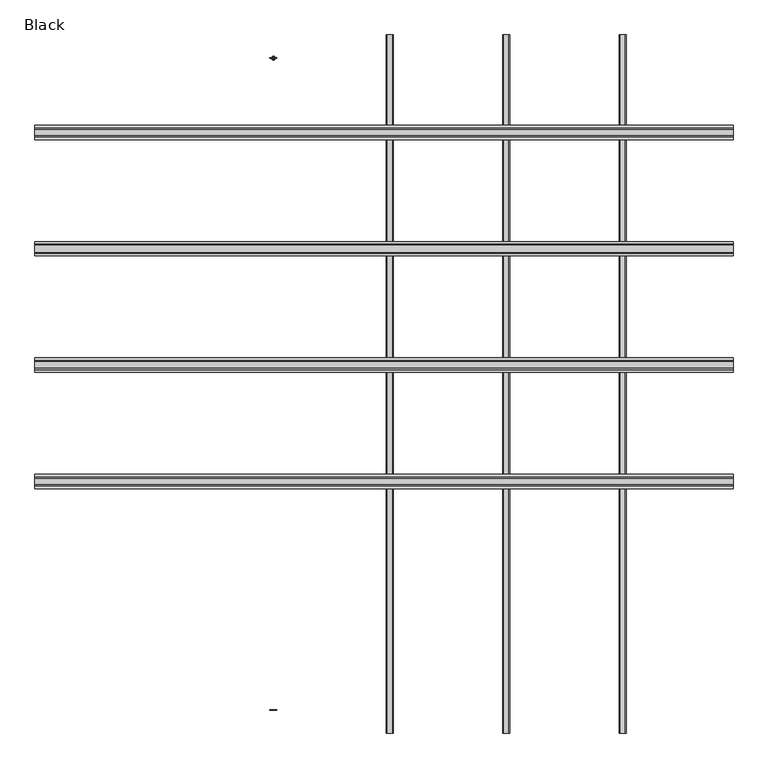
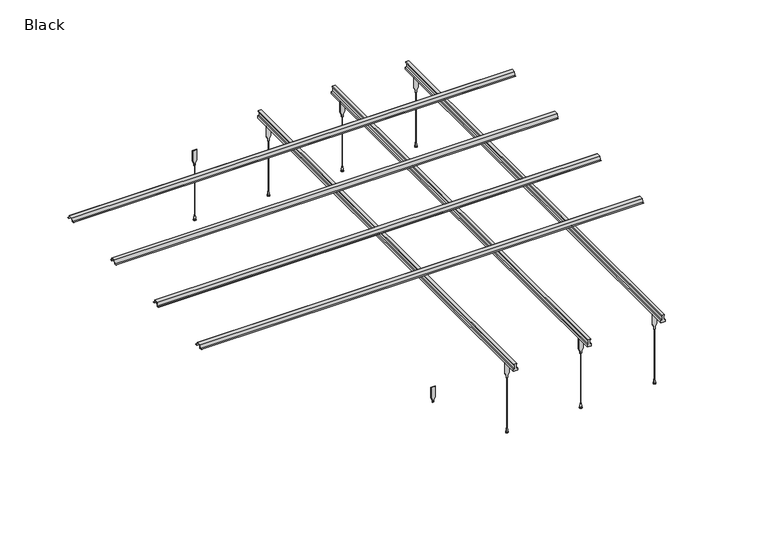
"""IFC4 building model written with IfcOpenShell, lengths in millimetres: proxy geometry, MountingTrack_Soffit_Modinex : Black."""

from ifc_helpers import new_model, si_unit, point, frame, frame_2d, origin, place, context, project, spatial, polyline, circle_curve, ellipse_curve, trimmed, segment, composite_curve, outline, extrude, source, transform, mapped, element, save
from ifc_brep_helpers import plane_surface, cylinder_surface, revolved_surface, advanced_brep


def black_910046b7(model_context):
    return source(origin(), model_context, "Body", "SolidModel", [
        extrude(outline(polyline([(1066.7109362, 574.0), (1095.2890638, 574.0), (1100.7890638, 551.0), (1112.0, 551.0), (1112.0, 550.0), (1100.0, 550.0), (1094.5, 573.0), (1067.5, 573.0), (1062.0, 550.0), (1050.0, 550.0), (1050.0, 551.0), (1061.2109362, 551.0), (1066.7109362, 574.0)])), frame((-1500.0, 0.0, 0.0), z_axis=(1.0, 0.0, 0.0), x_axis=(0.0, 1.0, 0.0)), (0.0, 0.0, 1.0), 3000.0),
        extrude(outline(polyline([(566.7109362, 574.0), (595.2890638, 574.0), (600.7890638, 551.0), (612.0, 551.0), (612.0, 550.0), (600.0, 550.0), (594.5, 573.0), (567.5, 573.0), (562.0, 550.0), (550.0, 550.0), (550.0, 551.0), (561.2109362, 551.0), (566.7109362, 574.0)])), frame((-1500.0, 0.0, 0.0), z_axis=(1.0, 0.0, 0.0), x_axis=(0.0, 1.0, 0.0)), (0.0, 0.0, 1.0), 3000.0),
        extrude(outline(polyline([(66.7109362, 574.0), (95.2890638, 574.0), (100.7890638, 551.0), (112.0, 551.0), (112.0, 550.0), (100.0, 550.0), (94.5, 573.0), (67.5, 573.0), (62.0, 550.0), (50.0, 550.0), (50.0, 551.0), (61.2109362, 551.0), (66.7109362, 574.0)])), frame((-1500.0, 0.0, 0.0), z_axis=(1.0, 0.0, 0.0), x_axis=(0.0, 1.0, 0.0)), (0.0, 0.0, 1.0), 3000.0),
        extrude(outline(polyline([(-433.2890638, 574.0), (-404.7109362, 574.0), (-399.2109362, 551.0), (-388.0, 551.0), (-388.0, 550.0), (-400.0, 550.0), (-405.5, 573.0), (-432.5, 573.0), (-438.0, 550.0), (-450.0, 550.0), (-450.0, 551.0), (-438.7890638, 551.0), (-433.2890638, 574.0)])), frame((-1500.0, 0.0, 0.0), z_axis=(1.0, 0.0, 0.0), x_axis=(0.0, 1.0, 0.0)), (0.0, 0.0, 1.0), 3000.0),
        extrude(outline(polyline([(390.0, 1030.0), (405.0, 1030.0), (425.0, 1040.0), (500.0, 1040.0), (500.0, 1010.0), (425.0, 1010.0), (405.0, 1020.0), (390.0, 1020.0), (390.0, 1030.0)])), frame((0.0, 1399.0, 0.0), z_axis=(0.0, 1.0, 0.0), x_axis=(0.0, 0.0, 1.0)), (0.0, 0.0, 1.0), 2.0),
        advanced_brep(
        [(1023.0, 1400.0, 35.0), (1027.0, 1400.0, 35.0), (1025.0, 1400.0, 35.0), (1025.0, 1400.0, 0.0), (1033.0000004, 1400.0, 0.0), (1016.9999996, 1400.0, 0.0), (1033.0000004, 1400.0, 2.5000013), (1016.9999996, 1400.0, 2.5000013), (1029.4999998, 1400.0, 2.5000013), (1020.5000002, 1400.0, 2.5000013), (1029.4999998, 1400.0, 5.5), (1020.5000002, 1400.0, 5.5), (1031.0000001, 1400.0, 5.5), (1018.9999999, 1400.0, 5.5), (1028.0, 1400.0, 29.9999993), (1022.0, 1400.0, 29.9999993), (1027.0, 1400.0, 29.9999993), (1023.0, 1400.0, 29.9999993)],
        [
            (0, 1, circle_curve(frame((1025.0, 1400.0, 35.0), z_axis=(0.0, 0.0, 1.0), x_axis=(1.0, 0.0, 0.0)), 2.0)),
            (1, 2),
            (2, 0),
            (1, 0, circle_curve(frame((1025.0, 1400.0, 35.0), z_axis=(0.0, 0.0, 1.0), x_axis=(1.0, 0.0, 0.0)), 2.0)),
            (3, 4),
            (4, 5, circle_curve(frame((1025.0, 1400.0, 0.0), z_axis=(0.0, 0.0, -1.0), x_axis=(1.0, 0.0, 0.0)), 8.0000004)),
            (5, 3),
            (5, 4, circle_curve(frame((1025.0, 1400.0, 0.0), z_axis=(0.0, 0.0, -1.0), x_axis=(1.0, 0.0, 0.0)), 8.0000004)),
            (4, 6),
            (6, 7, circle_curve(frame((1025.0, 1400.0, 2.5000013), z_axis=(0.0, 0.0, -1.0), x_axis=(1.0, 0.0, 0.0)), 8.0000004)),
            (7, 5),
            (7, 6, circle_curve(frame((1025.0, 1400.0, 2.5000013), z_axis=(0.0, 0.0, -1.0), x_axis=(1.0, 0.0, 0.0)), 8.0000004)),
            (6, 8),
            (8, 9, circle_curve(frame((1025.0, 1400.0, 2.5000013), z_axis=(0.0, 0.0, -1.0), x_axis=(1.0, 0.0, 0.0)), 4.4999998)),
            (9, 7),
            (9, 8, circle_curve(frame((1025.0, 1400.0, 2.5000013), z_axis=(0.0, 0.0, -1.0), x_axis=(1.0, 0.0, 0.0)), 4.4999998)),
            (8, 10),
            (10, 11, circle_curve(frame((1025.0, 1400.0, 5.5), z_axis=(0.0, 0.0, -1.0), x_axis=(1.0, 0.0, 0.0)), 4.4999998)),
            (11, 9),
            (11, 10, circle_curve(frame((1025.0, 1400.0, 5.5), z_axis=(0.0, 0.0, -1.0), x_axis=(1.0, 0.0, 0.0)), 4.4999998)),
            (10, 12),
            (12, 13, circle_curve(frame((1025.0, 1400.0, 5.5), z_axis=(0.0, 0.0, -1.0), x_axis=(1.0, 0.0, 0.0)), 6.0000001)),
            (13, 11),
            (13, 12, circle_curve(frame((1025.0, 1400.0, 5.5), z_axis=(0.0, 0.0, -1.0), x_axis=(1.0, 0.0, 0.0)), 6.0000001)),
            (12, 14, circle_curve(frame((929.4583655, 1400.0, 5.5000032), z_axis=(0.0, -1.0, 0.0), x_axis=(-1.0, 0.0, 0.0)), 101.5416345)),
            (14, 15, circle_curve(frame((1025.0, 1400.0, 29.9999993), z_axis=(0.0, 0.0, -1.0), x_axis=(1.0, 0.0, 0.0)), 3.0)),
            (15, 13, circle_curve(frame((1120.5416345, 1400.0, 5.5000032), z_axis=(0.0, -1.0, 0.0), x_axis=(1.0, 0.0, 0.0)), 101.5416345)),
            (15, 14, circle_curve(frame((1025.0, 1400.0, 29.9999993), z_axis=(0.0, 0.0, -1.0), x_axis=(1.0, 0.0, 0.0)), 3.0)),
            (14, 16),
            (16, 17, circle_curve(frame((1025.0, 1400.0, 29.9999993), z_axis=(0.0, 0.0, -1.0), x_axis=(1.0, 0.0, 0.0)), 2.0)),
            (17, 15),
            (17, 16, circle_curve(frame((1025.0, 1400.0, 29.9999993), z_axis=(0.0, 0.0, -1.0), x_axis=(1.0, 0.0, 0.0)), 2.0)),
            (16, 1),
            (0, 17),
        ],
        [
            plane_surface(frame((1025.0, 1400.0, 35.0), z_axis=(0.0, 0.0, 1.0), x_axis=(1.0, 0.0, 0.0))),
            plane_surface(frame((1025.0, 1400.0, 0.0), z_axis=(0.0, 0.0, -1.0), x_axis=(1.0, 0.0, 0.0))),
            cylinder_surface(frame((1025.0, 1400.0, -15.1208873), z_axis=(0.0, 0.0, -1.0), x_axis=(1.0, 0.0, 0.0)), 8.0000004),
            plane_surface(frame((1025.0, 1400.0, 2.5000013), z_axis=(0.0, 0.0, 1.0), x_axis=(1.0, 0.0, 0.0))),
            cylinder_surface(frame((1025.0, 1400.0, -15.1208873), z_axis=(0.0, 0.0, -1.0), x_axis=(1.0, 0.0, 0.0)), 4.4999998),
            plane_surface(frame((1025.0, 1400.0, 5.5), z_axis=(0.0, 0.0, -1.0), x_axis=(1.0, 0.0, 0.0))),
            revolved_surface(trimmed(ellipse_curve(frame((929.4583655, 1400.0, 5.5000032), z_axis=(0.0, 1.0, 0.0), x_axis=(-1.0, 0.0, 0.0)), 101.5416345, 101.5416345), [point((1028.0, 1400.0, 29.9999993))], [point((1031.0000001, 1400.0, 5.5))], True, "CARTESIAN"), (1025.0, 1400.0, -15.1208873), (0.0, 0.0, -1.0)),
            plane_surface(frame((1025.0, 1400.0, 29.9999993), z_axis=(0.0, 0.0, 1.0), x_axis=(1.0, 0.0, 0.0))),
            cylinder_surface(frame((1025.0, 1400.0, -15.1208873), z_axis=(0.0, 0.0, -1.0), x_axis=(1.0, 0.0, 0.0)), 2.0),
        ],
        [
            (0, [[1, 2, 3]]),
            (0, [[4, -3, -2]]),
            (1, [[5, 6, 7]]),
            (1, [[-7, 8, -5]]),
            (2, [[-6, 9, 10, 11]]),
            (2, [[-8, -11, 12, -9]]),
            (3, [[-10, 13, 14, 15]]),
            (3, [[-12, -15, 16, -13]]),
            (4, [[-14, 17, 18, 19]]),
            (4, [[-16, -19, 20, -17]]),
            (5, [[-18, 21, 22, 23]]),
            (5, [[-20, -23, 24, -21]]),
            (6, [[-22, 25, 26, 27]]),
            (6, [[-24, -27, 28, -25]]),
            (7, [[-26, 29, 30, 31]]),
            (7, [[-28, -31, 32, -29]]),
            (8, [[-30, 33, -1, 34]]),
            (8, [[-32, -34, -4, -33]]),
        ],
    ),
        extrude(outline(composite_curve([segment(trimmed(circle_curve(frame_2d((1025.0, 1400.0)), 0.65), [point((1025.65, 1400.0))], [point((1024.35, 1400.0))], False, "CARTESIAN"), True, "CONTINUOUS"), segment(trimmed(circle_curve(frame_2d((1025.0, 1400.0)), 0.65), [point((1024.35, 1400.0))], [point((1025.65, 1400.0))], False, "CARTESIAN"), True, "CONTINUOUS")], self_intersect=False)), frame((0.0, 0.0, 35.0), z_axis=(0.0, 0.0, 1.0), x_axis=(1.0, 0.0, 0.0)), (0.0, 0.0, 1.0), 355.0),
        extrude(outline(polyline([(390.0, 1030.0), (405.0, 1030.0), (425.0, 1040.0), (500.0, 1040.0), (500.0, 1010.0), (425.0, 1010.0), (405.0, 1020.0), (390.0, 1020.0), (390.0, 1030.0)])), frame((0.0, -1401.0, 0.0), z_axis=(0.0, 1.0, 0.0), x_axis=(0.0, 0.0, 1.0)), (0.0, 0.0, 1.0), 2.0),
        advanced_brep(
        [(1023.0, -1400.0, 35.0), (1027.0, -1400.0, 35.0), (1025.0, -1400.0, 35.0), (1025.0, -1400.0, 0.0), (1033.0000004, -1400.0, 0.0), (1016.9999996, -1400.0, 0.0), (1033.0000004, -1400.0, 2.5000013), (1016.9999996, -1400.0, 2.5000013), (1029.4999998, -1400.0, 2.5000013), (1020.5000002, -1400.0, 2.5000013), (1029.4999998, -1400.0, 5.5), (1020.5000002, -1400.0, 5.5), (1031.0000001, -1400.0, 5.5), (1018.9999999, -1400.0, 5.5), (1028.0, -1400.0, 29.9999993), (1022.0, -1400.0, 29.9999993), (1027.0, -1400.0, 29.9999993), (1023.0, -1400.0, 29.9999993)],
        [
            (0, 1, circle_curve(frame((1025.0, -1400.0, 35.0), z_axis=(0.0, 0.0, 1.0), x_axis=(1.0, 0.0, 0.0)), 2.0)),
            (1, 2),
            (2, 0),
            (1, 0, circle_curve(frame((1025.0, -1400.0, 35.0), z_axis=(0.0, 0.0, 1.0), x_axis=(1.0, 0.0, 0.0)), 2.0)),
            (3, 4),
            (4, 5, circle_curve(frame((1025.0, -1400.0, 0.0), z_axis=(0.0, 0.0, -1.0), x_axis=(1.0, 0.0, 0.0)), 8.0000004)),
            (5, 3),
            (5, 4, circle_curve(frame((1025.0, -1400.0, 0.0), z_axis=(0.0, 0.0, -1.0), x_axis=(1.0, 0.0, 0.0)), 8.0000004)),
            (4, 6),
            (6, 7, circle_curve(frame((1025.0, -1400.0, 2.5000013), z_axis=(0.0, 0.0, -1.0), x_axis=(1.0, 0.0, 0.0)), 8.0000004)),
            (7, 5),
            (7, 6, circle_curve(frame((1025.0, -1400.0, 2.5000013), z_axis=(0.0, 0.0, -1.0), x_axis=(1.0, 0.0, 0.0)), 8.0000004)),
            (6, 8),
            (8, 9, circle_curve(frame((1025.0, -1400.0, 2.5000013), z_axis=(0.0, 0.0, -1.0), x_axis=(1.0, 0.0, 0.0)), 4.4999998)),
            (9, 7),
            (9, 8, circle_curve(frame((1025.0, -1400.0, 2.5000013), z_axis=(0.0, 0.0, -1.0), x_axis=(1.0, 0.0, 0.0)), 4.4999998)),
            (8, 10),
            (10, 11, circle_curve(frame((1025.0, -1400.0, 5.5), z_axis=(0.0, 0.0, -1.0), x_axis=(1.0, 0.0, 0.0)), 4.4999998)),
            (11, 9),
            (11, 10, circle_curve(frame((1025.0, -1400.0, 5.5), z_axis=(0.0, 0.0, -1.0), x_axis=(1.0, 0.0, 0.0)), 4.4999998)),
            (10, 12),
            (12, 13, circle_curve(frame((1025.0, -1400.0, 5.5), z_axis=(0.0, 0.0, -1.0), x_axis=(1.0, 0.0, 0.0)), 6.0000001)),
            (13, 11),
            (13, 12, circle_curve(frame((1025.0, -1400.0, 5.5), z_axis=(0.0, 0.0, -1.0), x_axis=(1.0, 0.0, 0.0)), 6.0000001)),
            (12, 14, circle_curve(frame((929.4583655, -1400.0, 5.5000032), z_axis=(0.0, -1.0, 0.0), x_axis=(-1.0, 0.0, 0.0)), 101.5416345)),
            (14, 15, circle_curve(frame((1025.0, -1400.0, 29.9999993), z_axis=(0.0, 0.0, -1.0), x_axis=(1.0, 0.0, 0.0)), 3.0)),
            (15, 13, circle_curve(frame((1120.5416345, -1400.0, 5.5000032), z_axis=(0.0, -1.0, 0.0), x_axis=(1.0, 0.0, 0.0)), 101.5416345)),
            (15, 14, circle_curve(frame((1025.0, -1400.0, 29.9999993), z_axis=(0.0, 0.0, -1.0), x_axis=(1.0, 0.0, 0.0)), 3.0)),
            (14, 16),
            (16, 17, circle_curve(frame((1025.0, -1400.0, 29.9999993), z_axis=(0.0, 0.0, -1.0), x_axis=(1.0, 0.0, 0.0)), 2.0)),
            (17, 15),
            (17, 16, circle_curve(frame((1025.0, -1400.0, 29.9999993), z_axis=(0.0, 0.0, -1.0), x_axis=(1.0, 0.0, 0.0)), 2.0)),
            (16, 1),
            (0, 17),
        ],
        [
            plane_surface(frame((1025.0, -1400.0, 35.0), z_axis=(0.0, 0.0, 1.0), x_axis=(1.0, 0.0, 0.0))),
            plane_surface(frame((1025.0, -1400.0, 0.0), z_axis=(0.0, 0.0, -1.0), x_axis=(1.0, 0.0, 0.0))),
            cylinder_surface(frame((1025.0, -1400.0, -15.1208873), z_axis=(0.0, 0.0, -1.0), x_axis=(1.0, 0.0, 0.0)), 8.0000004),
            plane_surface(frame((1025.0, -1400.0, 2.5000013), z_axis=(0.0, 0.0, 1.0), x_axis=(1.0, 0.0, 0.0))),
            cylinder_surface(frame((1025.0, -1400.0, -15.1208873), z_axis=(0.0, 0.0, -1.0), x_axis=(1.0, 0.0, 0.0)), 4.4999998),
            plane_surface(frame((1025.0, -1400.0, 5.5), z_axis=(0.0, 0.0, -1.0), x_axis=(1.0, 0.0, 0.0))),
            revolved_surface(trimmed(ellipse_curve(frame((929.4583655, -1400.0, 5.5000032), z_axis=(0.0, 1.0, 0.0), x_axis=(-1.0, 0.0, 0.0)), 101.5416345, 101.5416345), [point((1028.0, -1400.0, 29.9999993))], [point((1031.0000001, -1400.0, 5.5))], True, "CARTESIAN"), (1025.0, -1400.0, -15.1208873), (0.0, 0.0, -1.0)),
            plane_surface(frame((1025.0, -1400.0, 29.9999993), z_axis=(0.0, 0.0, 1.0), x_axis=(1.0, 0.0, 0.0))),
            cylinder_surface(frame((1025.0, -1400.0, -15.1208873), z_axis=(0.0, 0.0, -1.0), x_axis=(1.0, 0.0, 0.0)), 2.0),
        ],
        [
            (0, [[1, 2, 3]]),
            (0, [[4, -3, -2]]),
            (1, [[5, 6, 7]]),
            (1, [[-7, 8, -5]]),
            (2, [[-6, 9, 10, 11]]),
            (2, [[-8, -11, 12, -9]]),
            (3, [[-10, 13, 14, 15]]),
            (3, [[-12, -15, 16, -13]]),
            (4, [[-14, 17, 18, 19]]),
            (4, [[-16, -19, 20, -17]]),
            (5, [[-18, 21, 22, 23]]),
            (5, [[-20, -23, 24, -21]]),
            (6, [[-22, 25, 26, 27]]),
            (6, [[-24, -27, 28, -25]]),
            (7, [[-26, 29, 30, 31]]),
            (7, [[-28, -31, 32, -29]]),
            (8, [[-30, 33, -1, 34]]),
            (8, [[-32, -34, -4, -33]]),
        ],
    ),
        extrude(outline(composite_curve([segment(trimmed(circle_curve(frame_2d((1025.0, -1400.0)), 0.65), [point((1025.65, -1400.0))], [point((1024.35, -1400.0))], False, "CARTESIAN"), True, "CONTINUOUS"), segment(trimmed(circle_curve(frame_2d((1025.0, -1400.0)), 0.65), [point((1024.35, -1400.0))], [point((1025.65, -1400.0))], False, "CARTESIAN"), True, "CONTINUOUS")], self_intersect=False)), frame((0.0, 0.0, 35.0), z_axis=(0.0, 0.0, 1.0), x_axis=(1.0, 0.0, 0.0)), (0.0, 0.0, 1.0), 355.0),
        extrude(outline(polyline([(545.0, 1035.0), (550.0, 1035.0), (550.0, 1015.0), (545.0, 1015.0), (545.0, 1020.0), (515.0, 1020.0), (515.0, 1010.0), (500.0, 1010.0), (500.0, 1040.0), (515.0, 1040.0), (515.0, 1030.0), (545.0, 1030.0), (545.0, 1035.0)])), frame((0.0, -1500.0, 0.0), z_axis=(0.0, 1.0, 0.0), x_axis=(0.0, 0.0, 1.0)), (0.0, 0.0, 1.0), 3000.0),
        extrude(outline(polyline([(390.0, 530.0), (405.0, 530.0), (425.0, 540.0), (500.0, 540.0), (500.0, 510.0), (425.0, 510.0), (405.0, 520.0), (390.0, 520.0), (390.0, 530.0)])), frame((0.0, 1399.0, 0.0), z_axis=(0.0, 1.0, 0.0), x_axis=(0.0, 0.0, 1.0)), (0.0, 0.0, 1.0), 2.0),
        advanced_brep(
        [(523.0, 1400.0, 35.0), (527.0, 1400.0, 35.0), (525.0, 1400.0, 35.0), (525.0, 1400.0, 0.0), (533.0000004, 1400.0, 0.0), (516.9999996, 1400.0, 0.0), (533.0000004, 1400.0, 2.5000013), (516.9999996, 1400.0, 2.5000013), (529.4999998, 1400.0, 2.5000013), (520.5000002, 1400.0, 2.5000013), (529.4999998, 1400.0, 5.5), (520.5000002, 1400.0, 5.5), (531.0000001, 1400.0, 5.5), (518.9999999, 1400.0, 5.5), (528.0, 1400.0, 29.9999993), (522.0, 1400.0, 29.9999993), (527.0, 1400.0, 29.9999993), (523.0, 1400.0, 29.9999993)],
        [
            (0, 1, circle_curve(frame((525.0, 1400.0, 35.0), z_axis=(0.0, 0.0, 1.0), x_axis=(1.0, 0.0, 0.0)), 2.0)),
            (1, 2),
            (2, 0),
            (1, 0, circle_curve(frame((525.0, 1400.0, 35.0), z_axis=(0.0, 0.0, 1.0), x_axis=(1.0, 0.0, 0.0)), 2.0)),
            (3, 4),
            (4, 5, circle_curve(frame((525.0, 1400.0, 0.0), z_axis=(0.0, 0.0, -1.0), x_axis=(1.0, 0.0, 0.0)), 8.0000004)),
            (5, 3),
            (5, 4, circle_curve(frame((525.0, 1400.0, 0.0), z_axis=(0.0, 0.0, -1.0), x_axis=(1.0, 0.0, 0.0)), 8.0000004)),
            (4, 6),
            (6, 7, circle_curve(frame((525.0, 1400.0, 2.5000013), z_axis=(0.0, 0.0, -1.0), x_axis=(1.0, 0.0, 0.0)), 8.0000004)),
            (7, 5),
            (7, 6, circle_curve(frame((525.0, 1400.0, 2.5000013), z_axis=(0.0, 0.0, -1.0), x_axis=(1.0, 0.0, 0.0)), 8.0000004)),
            (6, 8),
            (8, 9, circle_curve(frame((525.0, 1400.0, 2.5000013), z_axis=(0.0, 0.0, -1.0), x_axis=(1.0, 0.0, 0.0)), 4.4999998)),
            (9, 7),
            (9, 8, circle_curve(frame((525.0, 1400.0, 2.5000013), z_axis=(0.0, 0.0, -1.0), x_axis=(1.0, 0.0, 0.0)), 4.4999998)),
            (8, 10),
            (10, 11, circle_curve(frame((525.0, 1400.0, 5.5), z_axis=(0.0, 0.0, -1.0), x_axis=(1.0, 0.0, 0.0)), 4.4999998)),
            (11, 9),
            (11, 10, circle_curve(frame((525.0, 1400.0, 5.5), z_axis=(0.0, 0.0, -1.0), x_axis=(1.0, 0.0, 0.0)), 4.4999998)),
            (10, 12),
            (12, 13, circle_curve(frame((525.0, 1400.0, 5.5), z_axis=(0.0, 0.0, -1.0), x_axis=(1.0, 0.0, 0.0)), 6.0000001)),
            (13, 11),
            (13, 12, circle_curve(frame((525.0, 1400.0, 5.5), z_axis=(0.0, 0.0, -1.0), x_axis=(1.0, 0.0, 0.0)), 6.0000001)),
            (12, 14, circle_curve(frame((429.4583655, 1400.0, 5.5000032), z_axis=(0.0, -1.0, 0.0), x_axis=(-1.0, 0.0, 0.0)), 101.5416345)),
            (14, 15, circle_curve(frame((525.0, 1400.0, 29.9999993), z_axis=(0.0, 0.0, -1.0), x_axis=(1.0, 0.0, 0.0)), 3.0)),
            (15, 13, circle_curve(frame((620.5416345, 1400.0, 5.5000032), z_axis=(0.0, -1.0, 0.0), x_axis=(1.0, 0.0, 0.0)), 101.5416345)),
            (15, 14, circle_curve(frame((525.0, 1400.0, 29.9999993), z_axis=(0.0, 0.0, -1.0), x_axis=(1.0, 0.0, 0.0)), 3.0)),
            (14, 16),
            (16, 17, circle_curve(frame((525.0, 1400.0, 29.9999993), z_axis=(0.0, 0.0, -1.0), x_axis=(1.0, 0.0, 0.0)), 2.0)),
            (17, 15),
            (17, 16, circle_curve(frame((525.0, 1400.0, 29.9999993), z_axis=(0.0, 0.0, -1.0), x_axis=(1.0, 0.0, 0.0)), 2.0)),
            (16, 1),
            (0, 17),
        ],
        [
            plane_surface(frame((525.0, 1400.0, 35.0), z_axis=(0.0, 0.0, 1.0), x_axis=(1.0, 0.0, 0.0))),
            plane_surface(frame((525.0, 1400.0, 0.0), z_axis=(0.0, 0.0, -1.0), x_axis=(1.0, 0.0, 0.0))),
            cylinder_surface(frame((525.0, 1400.0, -15.1208873), z_axis=(0.0, 0.0, -1.0), x_axis=(1.0, 0.0, 0.0)), 8.0000004),
            plane_surface(frame((525.0, 1400.0, 2.5000013), z_axis=(0.0, 0.0, 1.0), x_axis=(1.0, 0.0, 0.0))),
            cylinder_surface(frame((525.0, 1400.0, -15.1208873), z_axis=(0.0, 0.0, -1.0), x_axis=(1.0, 0.0, 0.0)), 4.4999998),
            plane_surface(frame((525.0, 1400.0, 5.5), z_axis=(0.0, 0.0, -1.0), x_axis=(1.0, 0.0, 0.0))),
            revolved_surface(trimmed(ellipse_curve(frame((429.4583655, 1400.0, 5.5000032), z_axis=(0.0, 1.0, 0.0), x_axis=(-1.0, 0.0, 0.0)), 101.5416345, 101.5416345), [point((528.0, 1400.0, 29.9999993))], [point((531.0000001, 1400.0, 5.5))], True, "CARTESIAN"), (525.0, 1400.0, -15.1208873), (0.0, 0.0, -1.0)),
            plane_surface(frame((525.0, 1400.0, 29.9999993), z_axis=(0.0, 0.0, 1.0), x_axis=(1.0, 0.0, 0.0))),
            cylinder_surface(frame((525.0, 1400.0, -15.1208873), z_axis=(0.0, 0.0, -1.0), x_axis=(1.0, 0.0, 0.0)), 2.0),
        ],
        [
            (0, [[1, 2, 3]]),
            (0, [[4, -3, -2]]),
            (1, [[5, 6, 7]]),
            (1, [[-7, 8, -5]]),
            (2, [[-6, 9, 10, 11]]),
            (2, [[-8, -11, 12, -9]]),
            (3, [[-10, 13, 14, 15]]),
            (3, [[-12, -15, 16, -13]]),
            (4, [[-14, 17, 18, 19]]),
            (4, [[-16, -19, 20, -17]]),
            (5, [[-18, 21, 22, 23]]),
            (5, [[-20, -23, 24, -21]]),
            (6, [[-22, 25, 26, 27]]),
            (6, [[-24, -27, 28, -25]]),
            (7, [[-26, 29, 30, 31]]),
            (7, [[-28, -31, 32, -29]]),
            (8, [[-30, 33, -1, 34]]),
            (8, [[-32, -34, -4, -33]]),
        ],
    ),
        extrude(outline(composite_curve([segment(trimmed(circle_curve(frame_2d((525.0, 1400.0)), 0.65), [point((525.65, 1400.0))], [point((524.35, 1400.0))], False, "CARTESIAN"), True, "CONTINUOUS"), segment(trimmed(circle_curve(frame_2d((525.0, 1400.0)), 0.65), [point((524.35, 1400.0))], [point((525.65, 1400.0))], False, "CARTESIAN"), True, "CONTINUOUS")], self_intersect=False)), frame((0.0, 0.0, 35.0), z_axis=(0.0, 0.0, 1.0), x_axis=(1.0, 0.0, 0.0)), (0.0, 0.0, 1.0), 355.0),
        extrude(outline(polyline([(390.0, 530.0), (405.0, 530.0), (425.0, 540.0), (500.0, 540.0), (500.0, 510.0), (425.0, 510.0), (405.0, 520.0), (390.0, 520.0), (390.0, 530.0)])), frame((0.0, -1401.0, 0.0), z_axis=(0.0, 1.0, 0.0), x_axis=(0.0, 0.0, 1.0)), (0.0, 0.0, 1.0), 2.0),
        advanced_brep(
        [(523.0, -1400.0, 35.0), (527.0, -1400.0, 35.0), (525.0, -1400.0, 35.0), (525.0, -1400.0, 0.0), (533.0000004, -1400.0, 0.0), (516.9999996, -1400.0, 0.0), (533.0000004, -1400.0, 2.5000013), (516.9999996, -1400.0, 2.5000013), (529.4999998, -1400.0, 2.5000013), (520.5000002, -1400.0, 2.5000013), (529.4999998, -1400.0, 5.5), (520.5000002, -1400.0, 5.5), (531.0000001, -1400.0, 5.5), (518.9999999, -1400.0, 5.5), (528.0, -1400.0, 29.9999993), (522.0, -1400.0, 29.9999993), (527.0, -1400.0, 29.9999993), (523.0, -1400.0, 29.9999993)],
        [
            (0, 1, circle_curve(frame((525.0, -1400.0, 35.0), z_axis=(0.0, 0.0, 1.0), x_axis=(1.0, 0.0, 0.0)), 2.0)),
            (1, 2),
            (2, 0),
            (1, 0, circle_curve(frame((525.0, -1400.0, 35.0), z_axis=(0.0, 0.0, 1.0), x_axis=(1.0, 0.0, 0.0)), 2.0)),
            (3, 4),
            (4, 5, circle_curve(frame((525.0, -1400.0, 0.0), z_axis=(0.0, 0.0, -1.0), x_axis=(1.0, 0.0, 0.0)), 8.0000004)),
            (5, 3),
            (5, 4, circle_curve(frame((525.0, -1400.0, 0.0), z_axis=(0.0, 0.0, -1.0), x_axis=(1.0, 0.0, 0.0)), 8.0000004)),
            (4, 6),
            (6, 7, circle_curve(frame((525.0, -1400.0, 2.5000013), z_axis=(0.0, 0.0, -1.0), x_axis=(1.0, 0.0, 0.0)), 8.0000004)),
            (7, 5),
            (7, 6, circle_curve(frame((525.0, -1400.0, 2.5000013), z_axis=(0.0, 0.0, -1.0), x_axis=(1.0, 0.0, 0.0)), 8.0000004)),
            (6, 8),
            (8, 9, circle_curve(frame((525.0, -1400.0, 2.5000013), z_axis=(0.0, 0.0, -1.0), x_axis=(1.0, 0.0, 0.0)), 4.4999998)),
            (9, 7),
            (9, 8, circle_curve(frame((525.0, -1400.0, 2.5000013), z_axis=(0.0, 0.0, -1.0), x_axis=(1.0, 0.0, 0.0)), 4.4999998)),
            (8, 10),
            (10, 11, circle_curve(frame((525.0, -1400.0, 5.5), z_axis=(0.0, 0.0, -1.0), x_axis=(1.0, 0.0, 0.0)), 4.4999998)),
            (11, 9),
            (11, 10, circle_curve(frame((525.0, -1400.0, 5.5), z_axis=(0.0, 0.0, -1.0), x_axis=(1.0, 0.0, 0.0)), 4.4999998)),
            (10, 12),
            (12, 13, circle_curve(frame((525.0, -1400.0, 5.5), z_axis=(0.0, 0.0, -1.0), x_axis=(1.0, 0.0, 0.0)), 6.0000001)),
            (13, 11),
            (13, 12, circle_curve(frame((525.0, -1400.0, 5.5), z_axis=(0.0, 0.0, -1.0), x_axis=(1.0, 0.0, 0.0)), 6.0000001)),
            (12, 14, circle_curve(frame((429.4583655, -1400.0, 5.5000032), z_axis=(0.0, -1.0, 0.0), x_axis=(-1.0, 0.0, 0.0)), 101.5416345)),
            (14, 15, circle_curve(frame((525.0, -1400.0, 29.9999993), z_axis=(0.0, 0.0, -1.0), x_axis=(1.0, 0.0, 0.0)), 3.0)),
            (15, 13, circle_curve(frame((620.5416345, -1400.0, 5.5000032), z_axis=(0.0, -1.0, 0.0), x_axis=(1.0, 0.0, 0.0)), 101.5416345)),
            (15, 14, circle_curve(frame((525.0, -1400.0, 29.9999993), z_axis=(0.0, 0.0, -1.0), x_axis=(1.0, 0.0, 0.0)), 3.0)),
            (14, 16),
            (16, 17, circle_curve(frame((525.0, -1400.0, 29.9999993), z_axis=(0.0, 0.0, -1.0), x_axis=(1.0, 0.0, 0.0)), 2.0)),
            (17, 15),
            (17, 16, circle_curve(frame((525.0, -1400.0, 29.9999993), z_axis=(0.0, 0.0, -1.0), x_axis=(1.0, 0.0, 0.0)), 2.0)),
            (16, 1),
            (0, 17),
        ],
        [
            plane_surface(frame((525.0, -1400.0, 35.0), z_axis=(0.0, 0.0, 1.0), x_axis=(1.0, 0.0, 0.0))),
            plane_surface(frame((525.0, -1400.0, 0.0), z_axis=(0.0, 0.0, -1.0), x_axis=(1.0, 0.0, 0.0))),
            cylinder_surface(frame((525.0, -1400.0, -15.1208873), z_axis=(0.0, 0.0, -1.0), x_axis=(1.0, 0.0, 0.0)), 8.0000004),
            plane_surface(frame((525.0, -1400.0, 2.5000013), z_axis=(0.0, 0.0, 1.0), x_axis=(1.0, 0.0, 0.0))),
            cylinder_surface(frame((525.0, -1400.0, -15.1208873), z_axis=(0.0, 0.0, -1.0), x_axis=(1.0, 0.0, 0.0)), 4.4999998),
            plane_surface(frame((525.0, -1400.0, 5.5), z_axis=(0.0, 0.0, -1.0), x_axis=(1.0, 0.0, 0.0))),
            revolved_surface(trimmed(ellipse_curve(frame((429.4583655, -1400.0, 5.5000032), z_axis=(0.0, 1.0, 0.0), x_axis=(-1.0, 0.0, 0.0)), 101.5416345, 101.5416345), [point((528.0, -1400.0, 29.9999993))], [point((531.0000001, -1400.0, 5.5))], True, "CARTESIAN"), (525.0, -1400.0, -15.1208873), (0.0, 0.0, -1.0)),
            plane_surface(frame((525.0, -1400.0, 29.9999993), z_axis=(0.0, 0.0, 1.0), x_axis=(1.0, 0.0, 0.0))),
            cylinder_surface(frame((525.0, -1400.0, -15.1208873), z_axis=(0.0, 0.0, -1.0), x_axis=(1.0, 0.0, 0.0)), 2.0),
        ],
        [
            (0, [[1, 2, 3]]),
            (0, [[4, -3, -2]]),
            (1, [[5, 6, 7]]),
            (1, [[-7, 8, -5]]),
            (2, [[-6, 9, 10, 11]]),
            (2, [[-8, -11, 12, -9]]),
            (3, [[-10, 13, 14, 15]]),
            (3, [[-12, -15, 16, -13]]),
            (4, [[-14, 17, 18, 19]]),
            (4, [[-16, -19, 20, -17]]),
            (5, [[-18, 21, 22, 23]]),
            (5, [[-20, -23, 24, -21]]),
            (6, [[-22, 25, 26, 27]]),
            (6, [[-24, -27, 28, -25]]),
            (7, [[-26, 29, 30, 31]]),
            (7, [[-28, -31, 32, -29]]),
            (8, [[-30, 33, -1, 34]]),
            (8, [[-32, -34, -4, -33]]),
        ],
    ),
        extrude(outline(composite_curve([segment(trimmed(circle_curve(frame_2d((525.0, -1400.0)), 0.65), [point((525.65, -1400.0))], [point((524.35, -1400.0))], False, "CARTESIAN"), True, "CONTINUOUS"), segment(trimmed(circle_curve(frame_2d((525.0, -1400.0)), 0.65), [point((524.35, -1400.0))], [point((525.65, -1400.0))], False, "CARTESIAN"), True, "CONTINUOUS")], self_intersect=False)), frame((0.0, 0.0, 35.0), z_axis=(0.0, 0.0, 1.0), x_axis=(1.0, 0.0, 0.0)), (0.0, 0.0, 1.0), 355.0),
        extrude(outline(polyline([(545.0, 535.0), (550.0, 535.0), (550.0, 515.0), (545.0, 515.0), (545.0, 520.0), (515.0, 520.0), (515.0, 510.0), (500.0, 510.0), (500.0, 540.0), (515.0, 540.0), (515.0, 530.0), (545.0, 530.0), (545.0, 535.0)])), frame((0.0, -1500.0, 0.0), z_axis=(0.0, 1.0, 0.0), x_axis=(0.0, 0.0, 1.0)), (0.0, 0.0, 1.0), 3000.0),
        extrude(outline(polyline([(390.0, 30.0), (405.0, 30.0), (425.0, 40.0), (500.0, 40.0), (500.0, 10.0), (425.0, 10.0), (405.0, 20.0), (390.0, 20.0), (390.0, 30.0)])), frame((0.0, 1399.0, 0.0), z_axis=(0.0, 1.0, 0.0), x_axis=(0.0, 0.0, 1.0)), (0.0, 0.0, 1.0), 2.0),
        advanced_brep(
        [(23.0, 1400.0, 35.0), (27.0, 1400.0, 35.0), (25.0, 1400.0, 35.0), (25.0, 1400.0, 0.0), (33.0000004, 1400.0, 0.0), (16.9999996, 1400.0, 0.0), (33.0000004, 1400.0, 2.5000013), (16.9999996, 1400.0, 2.5000013), (29.4999998, 1400.0, 2.5000013), (20.5000002, 1400.0, 2.5000013), (29.4999998, 1400.0, 5.5), (20.5000002, 1400.0, 5.5), (31.0000001, 1400.0, 5.5), (18.9999999, 1400.0, 5.5), (28.0, 1400.0, 29.9999993), (22.0, 1400.0, 29.9999993), (27.0, 1400.0, 29.9999993), (23.0, 1400.0, 29.9999993)],
        [
            (0, 1, circle_curve(frame((25.0, 1400.0, 35.0), z_axis=(0.0, 0.0, 1.0), x_axis=(1.0, 0.0, 0.0)), 2.0)),
            (1, 2),
            (2, 0),
            (1, 0, circle_curve(frame((25.0, 1400.0, 35.0), z_axis=(0.0, 0.0, 1.0), x_axis=(1.0, 0.0, 0.0)), 2.0)),
            (3, 4),
            (4, 5, circle_curve(frame((25.0, 1400.0, 0.0), z_axis=(0.0, 0.0, -1.0), x_axis=(1.0, 0.0, 0.0)), 8.0000004)),
            (5, 3),
            (5, 4, circle_curve(frame((25.0, 1400.0, 0.0), z_axis=(0.0, 0.0, -1.0), x_axis=(1.0, 0.0, 0.0)), 8.0000004)),
            (4, 6),
            (6, 7, circle_curve(frame((25.0, 1400.0, 2.5000013), z_axis=(0.0, 0.0, -1.0), x_axis=(1.0, 0.0, 0.0)), 8.0000004)),
            (7, 5),
            (7, 6, circle_curve(frame((25.0, 1400.0, 2.5000013), z_axis=(0.0, 0.0, -1.0), x_axis=(1.0, 0.0, 0.0)), 8.0000004)),
            (6, 8),
            (8, 9, circle_curve(frame((25.0, 1400.0, 2.5000013), z_axis=(0.0, 0.0, -1.0), x_axis=(1.0, 0.0, 0.0)), 4.4999998)),
            (9, 7),
            (9, 8, circle_curve(frame((25.0, 1400.0, 2.5000013), z_axis=(0.0, 0.0, -1.0), x_axis=(1.0, 0.0, 0.0)), 4.4999998)),
            (8, 10),
            (10, 11, circle_curve(frame((25.0, 1400.0, 5.5), z_axis=(0.0, 0.0, -1.0), x_axis=(1.0, 0.0, 0.0)), 4.4999998)),
            (11, 9),
            (11, 10, circle_curve(frame((25.0, 1400.0, 5.5), z_axis=(0.0, 0.0, -1.0), x_axis=(1.0, 0.0, 0.0)), 4.4999998)),
            (10, 12),
            (12, 13, circle_curve(frame((25.0, 1400.0, 5.5), z_axis=(0.0, 0.0, -1.0), x_axis=(1.0, 0.0, 0.0)), 6.0000001)),
            (13, 11),
            (13, 12, circle_curve(frame((25.0, 1400.0, 5.5), z_axis=(0.0, 0.0, -1.0), x_axis=(1.0, 0.0, 0.0)), 6.0000001)),
            (12, 14, circle_curve(frame((-70.5416345, 1400.0, 5.5000032), z_axis=(0.0, -1.0, 0.0), x_axis=(-1.0, 0.0, 0.0)), 101.5416345)),
            (14, 15, circle_curve(frame((25.0, 1400.0, 29.9999993), z_axis=(0.0, 0.0, -1.0), x_axis=(1.0, 0.0, 0.0)), 3.0)),
            (15, 13, circle_curve(frame((120.5416345, 1400.0, 5.5000032), z_axis=(0.0, -1.0, 0.0), x_axis=(1.0, 0.0, 0.0)), 101.5416345)),
            (15, 14, circle_curve(frame((25.0, 1400.0, 29.9999993), z_axis=(0.0, 0.0, -1.0), x_axis=(1.0, 0.0, 0.0)), 3.0)),
            (14, 16),
            (16, 17, circle_curve(frame((25.0, 1400.0, 29.9999993), z_axis=(0.0, 0.0, -1.0), x_axis=(1.0, 0.0, 0.0)), 2.0)),
            (17, 15),
            (17, 16, circle_curve(frame((25.0, 1400.0, 29.9999993), z_axis=(0.0, 0.0, -1.0), x_axis=(1.0, 0.0, 0.0)), 2.0)),
            (16, 1),
            (0, 17),
        ],
        [
            plane_surface(frame((25.0, 1400.0, 35.0), z_axis=(0.0, 0.0, 1.0), x_axis=(1.0, 0.0, 0.0))),
            plane_surface(frame((25.0, 1400.0, 0.0), z_axis=(0.0, 0.0, -1.0), x_axis=(1.0, 0.0, 0.0))),
            cylinder_surface(frame((25.0, 1400.0, -15.1208873), z_axis=(0.0, 0.0, -1.0), x_axis=(1.0, 0.0, 0.0)), 8.0000004),
            plane_surface(frame((25.0, 1400.0, 2.5000013), z_axis=(0.0, 0.0, 1.0), x_axis=(1.0, 0.0, 0.0))),
            cylinder_surface(frame((25.0, 1400.0, -15.1208873), z_axis=(0.0, 0.0, -1.0), x_axis=(1.0, 0.0, 0.0)), 4.4999998),
            plane_surface(frame((25.0, 1400.0, 5.5), z_axis=(0.0, 0.0, -1.0), x_axis=(1.0, 0.0, 0.0))),
            revolved_surface(trimmed(ellipse_curve(frame((-70.5416345, 1400.0, 5.5000032), z_axis=(0.0, 1.0, 0.0), x_axis=(-1.0, 0.0, 0.0)), 101.5416345, 101.5416345), [point((28.0, 1400.0, 29.9999993))], [point((31.0000001, 1400.0, 5.5))], True, "CARTESIAN"), (25.0, 1400.0, -15.1208873), (0.0, 0.0, -1.0)),
            plane_surface(frame((25.0, 1400.0, 29.9999993), z_axis=(0.0, 0.0, 1.0), x_axis=(1.0, 0.0, 0.0))),
            cylinder_surface(frame((25.0, 1400.0, -15.1208873), z_axis=(0.0, 0.0, -1.0), x_axis=(1.0, 0.0, 0.0)), 2.0),
        ],
        [
            (0, [[1, 2, 3]]),
            (0, [[4, -3, -2]]),
            (1, [[5, 6, 7]]),
            (1, [[-7, 8, -5]]),
            (2, [[-6, 9, 10, 11]]),
            (2, [[-8, -11, 12, -9]]),
            (3, [[-10, 13, 14, 15]]),
            (3, [[-12, -15, 16, -13]]),
            (4, [[-14, 17, 18, 19]]),
            (4, [[-16, -19, 20, -17]]),
            (5, [[-18, 21, 22, 23]]),
            (5, [[-20, -23, 24, -21]]),
            (6, [[-22, 25, 26, 27]]),
            (6, [[-24, -27, 28, -25]]),
            (7, [[-26, 29, 30, 31]]),
            (7, [[-28, -31, 32, -29]]),
            (8, [[-30, 33, -1, 34]]),
            (8, [[-32, -34, -4, -33]]),
        ],
    ),
        extrude(outline(composite_curve([segment(trimmed(circle_curve(frame_2d((25.0, 1400.0)), 0.65), [point((25.65, 1400.0))], [point((24.35, 1400.0))], False, "CARTESIAN"), True, "CONTINUOUS"), segment(trimmed(circle_curve(frame_2d((25.0, 1400.0)), 0.65), [point((24.35, 1400.0))], [point((25.65, 1400.0))], False, "CARTESIAN"), True, "CONTINUOUS")], self_intersect=False)), frame((0.0, 0.0, 35.0), z_axis=(0.0, 0.0, 1.0), x_axis=(1.0, 0.0, 0.0)), (0.0, 0.0, 1.0), 355.0),
        extrude(outline(polyline([(390.0, 30.0), (405.0, 30.0), (425.0, 40.0), (500.0, 40.0), (500.0, 10.0), (425.0, 10.0), (405.0, 20.0), (390.0, 20.0), (390.0, 30.0)])), frame((0.0, -1401.0, 0.0), z_axis=(0.0, 1.0, 0.0), x_axis=(0.0, 0.0, 1.0)), (0.0, 0.0, 1.0), 2.0),
        advanced_brep(
        [(23.0, -1400.0, 35.0), (27.0, -1400.0, 35.0), (25.0, -1400.0, 35.0), (25.0, -1400.0, 0.0), (33.0000004, -1400.0, 0.0), (16.9999996, -1400.0, 0.0), (33.0000004, -1400.0, 2.5000013), (16.9999996, -1400.0, 2.5000013), (29.4999998, -1400.0, 2.5000013), (20.5000002, -1400.0, 2.5000013), (29.4999998, -1400.0, 5.5), (20.5000002, -1400.0, 5.5), (31.0000001, -1400.0, 5.5), (18.9999999, -1400.0, 5.5), (28.0, -1400.0, 29.9999993), (22.0, -1400.0, 29.9999993), (27.0, -1400.0, 29.9999993), (23.0, -1400.0, 29.9999993)],
        [
            (0, 1, circle_curve(frame((25.0, -1400.0, 35.0), z_axis=(0.0, 0.0, 1.0), x_axis=(1.0, 0.0, 0.0)), 2.0)),
            (1, 2),
            (2, 0),
            (1, 0, circle_curve(frame((25.0, -1400.0, 35.0), z_axis=(0.0, 0.0, 1.0), x_axis=(1.0, 0.0, 0.0)), 2.0)),
            (3, 4),
            (4, 5, circle_curve(frame((25.0, -1400.0, 0.0), z_axis=(0.0, 0.0, -1.0), x_axis=(1.0, 0.0, 0.0)), 8.0000004)),
            (5, 3),
            (5, 4, circle_curve(frame((25.0, -1400.0, 0.0), z_axis=(0.0, 0.0, -1.0), x_axis=(1.0, 0.0, 0.0)), 8.0000004)),
            (4, 6),
            (6, 7, circle_curve(frame((25.0, -1400.0, 2.5000013), z_axis=(0.0, 0.0, -1.0), x_axis=(1.0, 0.0, 0.0)), 8.0000004)),
            (7, 5),
            (7, 6, circle_curve(frame((25.0, -1400.0, 2.5000013), z_axis=(0.0, 0.0, -1.0), x_axis=(1.0, 0.0, 0.0)), 8.0000004)),
            (6, 8),
            (8, 9, circle_curve(frame((25.0, -1400.0, 2.5000013), z_axis=(0.0, 0.0, -1.0), x_axis=(1.0, 0.0, 0.0)), 4.4999998)),
            (9, 7),
            (9, 8, circle_curve(frame((25.0, -1400.0, 2.5000013), z_axis=(0.0, 0.0, -1.0), x_axis=(1.0, 0.0, 0.0)), 4.4999998)),
            (8, 10),
            (10, 11, circle_curve(frame((25.0, -1400.0, 5.5), z_axis=(0.0, 0.0, -1.0), x_axis=(1.0, 0.0, 0.0)), 4.4999998)),
            (11, 9),
            (11, 10, circle_curve(frame((25.0, -1400.0, 5.5), z_axis=(0.0, 0.0, -1.0), x_axis=(1.0, 0.0, 0.0)), 4.4999998)),
            (10, 12),
            (12, 13, circle_curve(frame((25.0, -1400.0, 5.5), z_axis=(0.0, 0.0, -1.0), x_axis=(1.0, 0.0, 0.0)), 6.0000001)),
            (13, 11),
            (13, 12, circle_curve(frame((25.0, -1400.0, 5.5), z_axis=(0.0, 0.0, -1.0), x_axis=(1.0, 0.0, 0.0)), 6.0000001)),
            (12, 14, circle_curve(frame((-70.5416345, -1400.0, 5.5000032), z_axis=(0.0, -1.0, 0.0), x_axis=(-1.0, 0.0, 0.0)), 101.5416345)),
            (14, 15, circle_curve(frame((25.0, -1400.0, 29.9999993), z_axis=(0.0, 0.0, -1.0), x_axis=(1.0, 0.0, 0.0)), 3.0)),
            (15, 13, circle_curve(frame((120.5416345, -1400.0, 5.5000032), z_axis=(0.0, -1.0, 0.0), x_axis=(1.0, 0.0, 0.0)), 101.5416345)),
            (15, 14, circle_curve(frame((25.0, -1400.0, 29.9999993), z_axis=(0.0, 0.0, -1.0), x_axis=(1.0, 0.0, 0.0)), 3.0)),
            (14, 16),
            (16, 17, circle_curve(frame((25.0, -1400.0, 29.9999993), z_axis=(0.0, 0.0, -1.0), x_axis=(1.0, 0.0, 0.0)), 2.0)),
            (17, 15),
            (17, 16, circle_curve(frame((25.0, -1400.0, 29.9999993), z_axis=(0.0, 0.0, -1.0), x_axis=(1.0, 0.0, 0.0)), 2.0)),
            (16, 1),
            (0, 17),
        ],
        [
            plane_surface(frame((25.0, -1400.0, 35.0), z_axis=(0.0, 0.0, 1.0), x_axis=(1.0, 0.0, 0.0))),
            plane_surface(frame((25.0, -1400.0, 0.0), z_axis=(0.0, 0.0, -1.0), x_axis=(1.0, 0.0, 0.0))),
            cylinder_surface(frame((25.0, -1400.0, -15.1208873), z_axis=(0.0, 0.0, -1.0), x_axis=(1.0, 0.0, 0.0)), 8.0000004),
            plane_surface(frame((25.0, -1400.0, 2.5000013), z_axis=(0.0, 0.0, 1.0), x_axis=(1.0, 0.0, 0.0))),
            cylinder_surface(frame((25.0, -1400.0, -15.1208873), z_axis=(0.0, 0.0, -1.0), x_axis=(1.0, 0.0, 0.0)), 4.4999998),
            plane_surface(frame((25.0, -1400.0, 5.5), z_axis=(0.0, 0.0, -1.0), x_axis=(1.0, 0.0, 0.0))),
            revolved_surface(trimmed(ellipse_curve(frame((-70.5416345, -1400.0, 5.5000032), z_axis=(0.0, 1.0, 0.0), x_axis=(-1.0, 0.0, 0.0)), 101.5416345, 101.5416345), [point((28.0, -1400.0, 29.9999993))], [point((31.0000001, -1400.0, 5.5))], True, "CARTESIAN"), (25.0, -1400.0, -15.1208873), (0.0, 0.0, -1.0)),
            plane_surface(frame((25.0, -1400.0, 29.9999993), z_axis=(0.0, 0.0, 1.0), x_axis=(1.0, 0.0, 0.0))),
            cylinder_surface(frame((25.0, -1400.0, -15.1208873), z_axis=(0.0, 0.0, -1.0), x_axis=(1.0, 0.0, 0.0)), 2.0),
        ],
        [
            (0, [[1, 2, 3]]),
            (0, [[4, -3, -2]]),
            (1, [[5, 6, 7]]),
            (1, [[-7, 8, -5]]),
            (2, [[-6, 9, 10, 11]]),
            (2, [[-8, -11, 12, -9]]),
            (3, [[-10, 13, 14, 15]]),
            (3, [[-12, -15, 16, -13]]),
            (4, [[-14, 17, 18, 19]]),
            (4, [[-16, -19, 20, -17]]),
            (5, [[-18, 21, 22, 23]]),
            (5, [[-20, -23, 24, -21]]),
            (6, [[-22, 25, 26, 27]]),
            (6, [[-24, -27, 28, -25]]),
            (7, [[-26, 29, 30, 31]]),
            (7, [[-28, -31, 32, -29]]),
            (8, [[-30, 33, -1, 34]]),
            (8, [[-32, -34, -4, -33]]),
        ],
    ),
        extrude(outline(composite_curve([segment(trimmed(circle_curve(frame_2d((25.0, -1400.0)), 0.65), [point((25.65, -1400.0))], [point((24.35, -1400.0))], False, "CARTESIAN"), True, "CONTINUOUS"), segment(trimmed(circle_curve(frame_2d((25.0, -1400.0)), 0.65), [point((24.35, -1400.0))], [point((25.65, -1400.0))], False, "CARTESIAN"), True, "CONTINUOUS")], self_intersect=False)), frame((0.0, 0.0, 35.0), z_axis=(0.0, 0.0, 1.0), x_axis=(1.0, 0.0, 0.0)), (0.0, 0.0, 1.0), 355.0),
        extrude(outline(polyline([(545.0, 35.0), (550.0, 35.0), (550.0, 15.0), (545.0, 15.0), (545.0, 20.0), (515.0, 20.0), (515.0, 10.0), (500.0, 10.0), (500.0, 40.0), (515.0, 40.0), (515.0, 30.0), (545.0, 30.0), (545.0, 35.0)])), frame((0.0, -1500.0, 0.0), z_axis=(0.0, 1.0, 0.0), x_axis=(0.0, 0.0, 1.0)), (0.0, 0.0, 1.0), 3000.0),
        extrude(outline(polyline([(390.0, -470.0), (405.0, -470.0), (425.0, -460.0), (500.0, -460.0), (500.0, -490.0), (425.0, -490.0), (405.0, -480.0), (390.0, -480.0), (390.0, -470.0)])), frame((0.0, 1399.0, 0.0), z_axis=(0.0, 1.0, 0.0), x_axis=(0.0, 0.0, 1.0)), (0.0, 0.0, 1.0), 2.0),
        advanced_brep(
        [(-477.0, 1400.0, 35.0), (-473.0, 1400.0, 35.0), (-475.0, 1400.0, 35.0), (-475.0, 1400.0, 0.0), (-466.9999996, 1400.0, 0.0), (-483.0000004, 1400.0, 0.0), (-466.9999996, 1400.0, 2.5000013), (-483.0000004, 1400.0, 2.5000013), (-470.5000002, 1400.0, 2.5000013), (-479.4999998, 1400.0, 2.5000013), (-470.5000002, 1400.0, 5.5), (-479.4999998, 1400.0, 5.5), (-468.9999999, 1400.0, 5.5), (-481.0000001, 1400.0, 5.5), (-472.0, 1400.0, 29.9999993), (-478.0, 1400.0, 29.9999993), (-473.0, 1400.0, 29.9999993), (-477.0, 1400.0, 29.9999993)],
        [
            (0, 1, circle_curve(frame((-475.0, 1400.0, 35.0), z_axis=(0.0, 0.0, 1.0), x_axis=(1.0, 0.0, 0.0)), 2.0)),
            (1, 2),
            (2, 0),
            (1, 0, circle_curve(frame((-475.0, 1400.0, 35.0), z_axis=(0.0, 0.0, 1.0), x_axis=(1.0, 0.0, 0.0)), 2.0)),
            (3, 4),
            (4, 5, circle_curve(frame((-475.0, 1400.0, 0.0), z_axis=(0.0, 0.0, -1.0), x_axis=(1.0, 0.0, 0.0)), 8.0000004)),
            (5, 3),
            (5, 4, circle_curve(frame((-475.0, 1400.0, 0.0), z_axis=(0.0, 0.0, -1.0), x_axis=(1.0, 0.0, 0.0)), 8.0000004)),
            (4, 6),
            (6, 7, circle_curve(frame((-475.0, 1400.0, 2.5000013), z_axis=(0.0, 0.0, -1.0), x_axis=(1.0, 0.0, 0.0)), 8.0000004)),
            (7, 5),
            (7, 6, circle_curve(frame((-475.0, 1400.0, 2.5000013), z_axis=(0.0, 0.0, -1.0), x_axis=(1.0, 0.0, 0.0)), 8.0000004)),
            (6, 8),
            (8, 9, circle_curve(frame((-475.0, 1400.0, 2.5000013), z_axis=(0.0, 0.0, -1.0), x_axis=(1.0, 0.0, 0.0)), 4.4999998)),
            (9, 7),
            (9, 8, circle_curve(frame((-475.0, 1400.0, 2.5000013), z_axis=(0.0, 0.0, -1.0), x_axis=(1.0, 0.0, 0.0)), 4.4999998)),
            (8, 10),
            (10, 11, circle_curve(frame((-475.0, 1400.0, 5.5), z_axis=(0.0, 0.0, -1.0), x_axis=(1.0, 0.0, 0.0)), 4.4999998)),
            (11, 9),
            (11, 10, circle_curve(frame((-475.0, 1400.0, 5.5), z_axis=(0.0, 0.0, -1.0), x_axis=(1.0, 0.0, 0.0)), 4.4999998)),
            (10, 12),
            (12, 13, circle_curve(frame((-475.0, 1400.0, 5.5), z_axis=(0.0, 0.0, -1.0), x_axis=(1.0, 0.0, 0.0)), 6.0000001)),
            (13, 11),
            (13, 12, circle_curve(frame((-475.0, 1400.0, 5.5), z_axis=(0.0, 0.0, -1.0), x_axis=(1.0, 0.0, 0.0)), 6.0000001)),
            (12, 14, circle_curve(frame((-570.5416345, 1400.0, 5.5000032), z_axis=(0.0, -1.0, 0.0), x_axis=(-1.0, 0.0, 0.0)), 101.5416345)),
            (14, 15, circle_curve(frame((-475.0, 1400.0, 29.9999993), z_axis=(0.0, 0.0, -1.0), x_axis=(1.0, 0.0, 0.0)), 3.0)),
            (15, 13, circle_curve(frame((-379.4583655, 1400.0, 5.5000032), z_axis=(0.0, -1.0, 0.0), x_axis=(1.0, 0.0, 0.0)), 101.5416345)),
            (15, 14, circle_curve(frame((-475.0, 1400.0, 29.9999993), z_axis=(0.0, 0.0, -1.0), x_axis=(1.0, 0.0, 0.0)), 3.0)),
            (14, 16),
            (16, 17, circle_curve(frame((-475.0, 1400.0, 29.9999993), z_axis=(0.0, 0.0, -1.0), x_axis=(1.0, 0.0, 0.0)), 2.0)),
            (17, 15),
            (17, 16, circle_curve(frame((-475.0, 1400.0, 29.9999993), z_axis=(0.0, 0.0, -1.0), x_axis=(1.0, 0.0, 0.0)), 2.0)),
            (16, 1),
            (0, 17),
        ],
        [
            plane_surface(frame((-475.0, 1400.0, 35.0), z_axis=(0.0, 0.0, 1.0), x_axis=(1.0, 0.0, 0.0))),
            plane_surface(frame((-475.0, 1400.0, 0.0), z_axis=(0.0, 0.0, -1.0), x_axis=(1.0, 0.0, 0.0))),
            cylinder_surface(frame((-475.0, 1400.0, -15.1208873), z_axis=(0.0, 0.0, -1.0), x_axis=(1.0, 0.0, 0.0)), 8.0000004),
            plane_surface(frame((-475.0, 1400.0, 2.5000013), z_axis=(0.0, 0.0, 1.0), x_axis=(1.0, 0.0, 0.0))),
            cylinder_surface(frame((-475.0, 1400.0, -15.1208873), z_axis=(0.0, 0.0, -1.0), x_axis=(1.0, 0.0, 0.0)), 4.4999998),
            plane_surface(frame((-475.0, 1400.0, 5.5), z_axis=(0.0, 0.0, -1.0), x_axis=(1.0, 0.0, 0.0))),
            revolved_surface(trimmed(ellipse_curve(frame((-570.5416345, 1400.0, 5.5000032), z_axis=(0.0, 1.0, 0.0), x_axis=(-1.0, 0.0, 0.0)), 101.5416345, 101.5416345), [point((-472.0, 1400.0, 29.9999993))], [point((-468.9999999, 1400.0, 5.5))], True, "CARTESIAN"), (-475.0, 1400.0, -15.1208873), (0.0, 0.0, -1.0)),
            plane_surface(frame((-475.0, 1400.0, 29.9999993), z_axis=(0.0, 0.0, 1.0), x_axis=(1.0, 0.0, 0.0))),
            cylinder_surface(frame((-475.0, 1400.0, -15.1208873), z_axis=(0.0, 0.0, -1.0), x_axis=(1.0, 0.0, 0.0)), 2.0),
        ],
        [
            (0, [[1, 2, 3]]),
            (0, [[4, -3, -2]]),
            (1, [[5, 6, 7]]),
            (1, [[-7, 8, -5]]),
            (2, [[-6, 9, 10, 11]]),
            (2, [[-8, -11, 12, -9]]),
            (3, [[-10, 13, 14, 15]]),
            (3, [[-12, -15, 16, -13]]),
            (4, [[-14, 17, 18, 19]]),
            (4, [[-16, -19, 20, -17]]),
            (5, [[-18, 21, 22, 23]]),
            (5, [[-20, -23, 24, -21]]),
            (6, [[-22, 25, 26, 27]]),
            (6, [[-24, -27, 28, -25]]),
            (7, [[-26, 29, 30, 31]]),
            (7, [[-28, -31, 32, -29]]),
            (8, [[-30, 33, -1, 34]]),
            (8, [[-32, -34, -4, -33]]),
        ],
    ),
        extrude(outline(composite_curve([segment(trimmed(circle_curve(frame_2d((-475.0, 1400.0)), 0.65), [point((-474.35, 1400.0))], [point((-475.65, 1400.0))], False, "CARTESIAN"), True, "CONTINUOUS"), segment(trimmed(circle_curve(frame_2d((-475.0, 1400.0)), 0.65), [point((-475.65, 1400.0))], [point((-474.35, 1400.0))], False, "CARTESIAN"), True, "CONTINUOUS")], self_intersect=False)), frame((0.0, 0.0, 35.0), z_axis=(0.0, 0.0, 1.0), x_axis=(1.0, 0.0, 0.0)), (0.0, 0.0, 1.0), 355.0),
        extrude(outline(polyline([(390.0, -470.0), (405.0, -470.0), (425.0, -460.0), (500.0, -460.0), (500.0, -490.0), (425.0, -490.0), (405.0, -480.0), (390.0, -480.0), (390.0, -470.0)])), frame((0.0, -1401.0, 0.0), z_axis=(0.0, 1.0, 0.0), x_axis=(0.0, 0.0, 1.0)), (0.0, 0.0, 1.0), 2.0),
    ])


if __name__ == "__main__":
    model = new_model("IFC4")
    model_context = context("Model", 3, world=origin())
    ifc_project = project(units=[si_unit("LENGTHUNIT", "METRE", prefix="MILLI")], contexts=[model_context])
    site = spatial("IfcSite", under=ifc_project)
    building = spatial("IfcBuilding", under=site)
    placement = place(None, origin())
    black_shape = black_910046b7(model_context)
    element("IfcBuildingElementProxy", 1, Name="MountingTrack_Soffit_Modinex : Black", ObjectType="MountingTrack_Soffit_Modinex : Black", at=placement, inside=building, context=model_context, shape_type="MappedRepresentation", body=[
        mapped(black_shape, transform((0.0, 0.0, 0.0), x_axis=(1.0, 0.0, 0.0), y_axis=(0.0, 1.0, 0.0), z_axis=(0.0, 0.0, 1.0))),
    ])
    save(model, "model.ifc")
